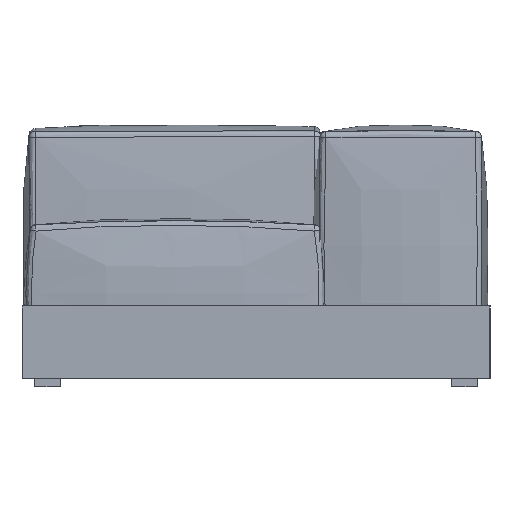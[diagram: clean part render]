
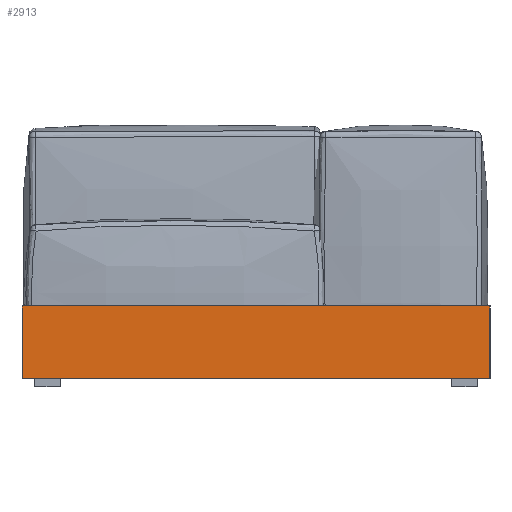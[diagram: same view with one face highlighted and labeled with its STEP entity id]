
A CAD part, left-side view. The second image highlights one B-rep face of the part: STEP entity #2913.
In plain terms, the highlighted planar face has unit normal (-1, 0, 0).
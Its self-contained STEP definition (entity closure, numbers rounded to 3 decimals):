
#432=FACE_OUTER_BOUND('',#658,.T.);
#658=EDGE_LOOP('',(#1984,#1985,#1986,#1987));
#896=LINE('',#4194,#1088);
#897=LINE('',#4196,#1089);
#898=LINE('',#4198,#1090);
#899=LINE('',#4199,#1091);
#1088=VECTOR('',#3474,10.);
#1089=VECTOR('',#3475,10.);
#1090=VECTOR('',#3476,10.);
#1091=VECTOR('',#3477,10.);
#1272=VERTEX_POINT('',#4192);
#1273=VERTEX_POINT('',#4193);
#1274=VERTEX_POINT('',#4195);
#1275=VERTEX_POINT('',#4197);
#1528=EDGE_CURVE('',#1272,#1273,#896,.T.);
#1529=EDGE_CURVE('',#1272,#1274,#897,.T.);
#1530=EDGE_CURVE('',#1275,#1274,#898,.T.);
#1531=EDGE_CURVE('',#1273,#1275,#899,.T.);
#1984=ORIENTED_EDGE('',*,*,#1528,.F.);
#1985=ORIENTED_EDGE('',*,*,#1529,.T.);
#1986=ORIENTED_EDGE('',*,*,#1530,.F.);
#1987=ORIENTED_EDGE('',*,*,#1531,.F.);
#2812=PLANE('',#3173);
#2913=ADVANCED_FACE('',(#432),#2812,.T.);
#3173=AXIS2_PLACEMENT_3D('',#4191,#3472,#3473);
#3472=DIRECTION('center_axis',(-1.,0.,0.));
#3473=DIRECTION('ref_axis',(0.,-1.,0.));
#3474=DIRECTION('',(0.,1.,0.));
#3475=DIRECTION('',(0.,0.,1.));
#3476=DIRECTION('',(0.,-1.,0.));
#3477=DIRECTION('',(0.,0.,1.));
#4191=CARTESIAN_POINT('Origin',(-900.,550.,0.));
#4192=CARTESIAN_POINT('',(-900.,-550.,0.));
#4193=CARTESIAN_POINT('',(-900.,550.,0.));
#4194=CARTESIAN_POINT('',(-900.,-550.,0.));
#4195=CARTESIAN_POINT('',(-900.,-550.,170.));
#4196=CARTESIAN_POINT('',(-900.,-550.,0.));
#4197=CARTESIAN_POINT('',(-900.,550.,170.));
#4198=CARTESIAN_POINT('',(-900.,-550.,170.));
#4199=CARTESIAN_POINT('',(-900.,550.,0.));
